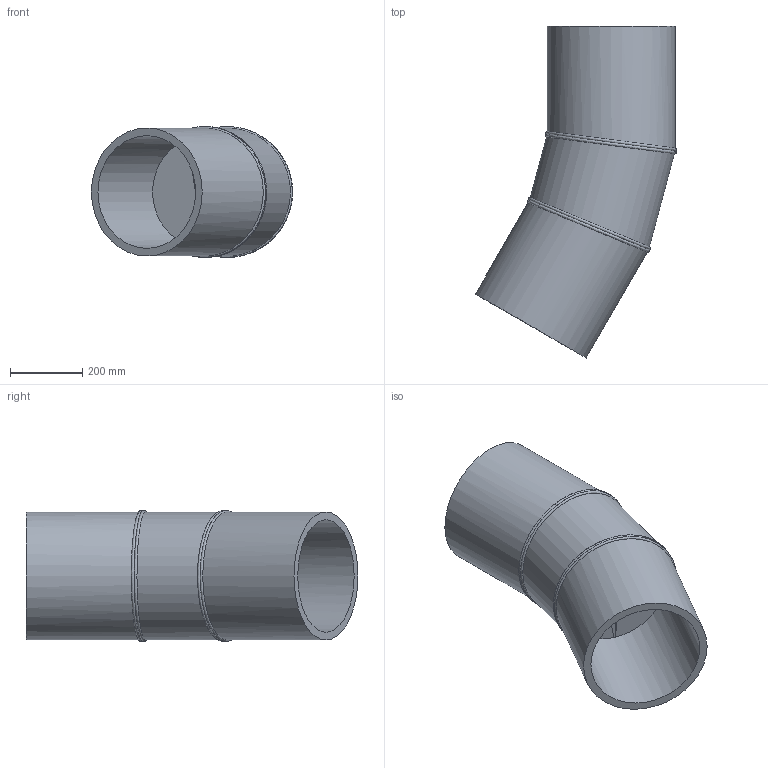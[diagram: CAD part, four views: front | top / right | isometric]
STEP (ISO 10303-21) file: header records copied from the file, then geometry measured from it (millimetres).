
FILE_DESCRIPTION(/* description */ ('Unknown'),/* implementation_level */ '2;1');
FILE_NAME(/* name */ 'Curva 30° a settore DE355 SDR17',/* time_stamp */ '2022-07-26T09:03:15+02:00',/* author */ ('Unknown'),/* organization */ ('Unknown'),/* preprocessor_version */ 'ST-DEVELOPER v18.102',/* originating_system */ 'Solid Edge',/* authorisation */ 'Unknown');
FILE_SCHEMA (('AUTOMOTIVE_DESIGN {1 0 10303 214 3 1 1}'));
Length unit declared in the file: millimetre
Products named in the file (3): Curva 30° a settore DE355 SDR17; Tubo x Gomito 30° DE355 SDR17 - 1; Tubo x Gomito 30° DE355 SDR17 - 2
Assembly tree (3 placements, depth 2):
  Curva 30° a settore DE355 SDR17
    Tubo x Gomito 30° DE355 SDR17 - 1  x2
    Tubo x Gomito 30° DE355 SDR17 - 2
Bounding box: 558.17 x 920.83 x 362.99 mm (x, y, z)
Volume: 19668296.3 mm3; surface area: 2008314.8 mm2
Topology: 3 solids, 3 shells, 24 faces, 51 edges, 33 vertices
Faces by surface type: cylinder 14, plane 6, bspline 4
Full cylindrical faces by diameter (mm): 312.8 x3, 355 x3
Entity records: 2341 total; most frequent: CARTESIAN_POINT 1946, DIRECTION 70, ORIENTED_EDGE 52, AXIS2_PLACEMENT_3D 35, EDGE_LOOP 28, FACE_BOUND 28, EDGE_CURVE 26, VERTEX_POINT 20
